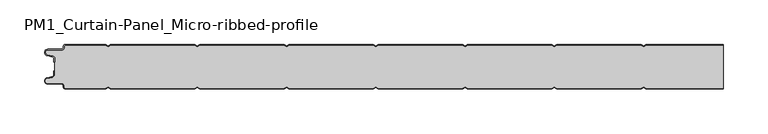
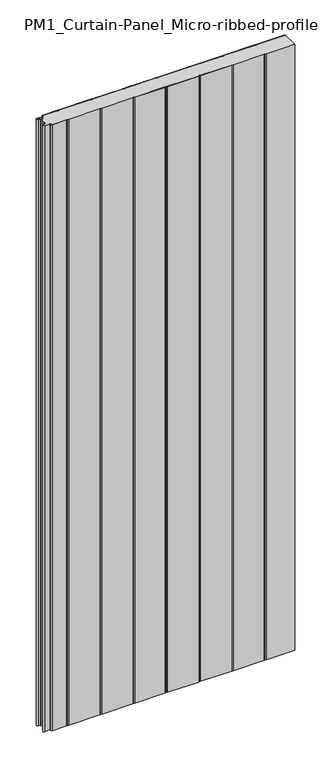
"""IFC4 building model written with IfcOpenShell, lengths in millimetres: plate geometry, PM1_Curtain-Panel_Micro-ribbed-profile : ACH_PM1_Stone-wool-Panel_50M."""

from ifc_helpers import new_model, si_unit, point, frame_2d, origin, origin_with_axes, place, context, project, spatial, polyline, circle_curve, trimmed, segment, composite_curve, outline, extrude, source, transform, mapped, element, save


def pm1_curtain_panel_micro_ribbed_profile_d84f3b6b(model_context):
    return source(origin(), model_context, "Body", "SweptSolid", [
        extrude(outline(composite_curve([segment(trimmed(circle_curve(frame_2d((-377.0119739, -15.878557)), 2.0), [point((-375.0119739, -15.878557))], [point((-376.5620718, -13.9298169))], True, "CARTESIAN"), True, "CONTINUOUS"), segment(polyline([(-376.5620718, -13.9298169), (-382.7217978, -12.507732)]), True, "CONTINUOUS"), segment(trimmed(circle_curve(frame_2d((-381.9119739, -9.0)), 3.6), [point((-382.7217978, -12.507732))], [point((-381.9119739, -5.4))], False, "CARTESIAN"), True, "CONTINUOUS"), segment(polyline([(-381.9119739, -5.4), (-366.4119739, -5.4)]), True, "CONTINUOUS"), segment(trimmed(circle_curve(frame_2d((-366.4119739, -3.4)), 2.0), [point((-366.4119739, -5.4))], [point((-364.4119739, -3.4))], True, "CARTESIAN"), True, "CONTINUOUS"), segment(polyline([(-364.4119739, -3.4), (-364.4119739, -2.0)]), True, "CONTINUOUS"), segment(trimmed(circle_curve(frame_2d((-362.4119739, -2.0)), 2.0), [point((-364.4119739, -2.0))], [point((-362.4119739, 0.0))], False, "CARTESIAN"), True, "CONTINUOUS"), segment(polyline([(-362.4119739, 0.0), (-317.1119734, 0.0), (-314.4119739, -1.5588455), (-311.7119745, 0.0), (-217.1119734, 0.0), (-214.4119739, -1.5588455), (-211.7119745, 0.0), (-117.1119734, 0.0), (-114.4119739, -1.5588455), (-111.7119745, 0.0), (-17.1119734, 0.0), (-14.4119739, -1.5588455), (-11.7119745, 0.0), (82.8880266, 0.0), (85.5880261, -1.5588455), (88.2880255, 0.0), (182.8880266, 0.0), (185.5880261, -1.5588455), (188.2880255, 0.0), (282.8880266, 0.0), (285.5880261, -1.5588455), (288.2880255, 0.0), (375.0119739, 0.0), (375.0119739, -0.8), (288.5023849, -0.8), (285.5880261, -2.482606), (282.6736672, -0.8), (188.5023849, -0.8), (185.5880261, -2.482606), (182.6736672, -0.8), (88.5023849, -0.8), (85.5880261, -2.482606), (82.6736672, -0.8), (-11.4976151, -0.8), (-14.4119739, -2.482606), (-17.3263328, -0.8), (-111.4976151, -0.8), (-114.4119739, -2.482606), (-117.3263328, -0.8), (-211.4976151, -0.8), (-214.4119739, -2.482606), (-217.3263328, -0.8), (-311.4976151, -0.8), (-314.4119739, -2.482606), (-317.3263328, -0.8), (-362.4119739, -0.8)]), True, "CONTINUOUS"), segment(trimmed(circle_curve(frame_2d((-362.4119739, -2.0)), 1.2), [point((-362.4119739, -0.8))], [point((-363.6119739, -2.0))], True, "CARTESIAN"), True, "CONTINUOUS"), segment(polyline([(-363.6119739, -2.0), (-363.6119739, -3.4)]), True, "CONTINUOUS"), segment(trimmed(circle_curve(frame_2d((-366.4119739, -3.4)), 2.8), [point((-363.6119739, -3.4))], [point((-366.4119739, -6.2))], False, "CARTESIAN"), True, "CONTINUOUS"), segment(polyline([(-366.4119739, -6.2), (-381.9119739, -6.2)]), True, "CONTINUOUS"), segment(trimmed(circle_curve(frame_2d((-381.9119739, -9.0)), 2.8), [point((-381.9119739, -6.2))], [point((-382.541837, -11.7282362))], True, "CARTESIAN"), True, "CONTINUOUS"), segment(polyline([(-382.541837, -11.7282362), (-376.3821109, -13.150321)]), True, "CONTINUOUS"), segment(trimmed(circle_curve(frame_2d((-377.0119739, -15.878557)), 2.8), [point((-376.3821109, -13.150321))], [point((-374.2119739, -15.878557))], False, "CARTESIAN"), True, "CONTINUOUS"), segment(polyline([(-374.2119739, -15.878557), (-374.2119739, -20.0), (-375.0119739, -20.0), (-375.0119739, -15.878557)]), True, "CONTINUOUS")], self_intersect=False)), origin_with_axes(), (0.0, 0.0, 1.0), 1945.7507136),
        extrude(outline(composite_curve([segment(polyline([(-374.2119739, -34.1214426), (-374.2119739, -15.8785573)]), True, "CONTINUOUS"), segment(trimmed(circle_curve(frame_2d((-377.0119739, -15.8785573)), 2.8), [point((-374.2119739, -15.8785573))], [point((-376.3821109, -13.1503212))], True, "CARTESIAN"), True, "CONTINUOUS"), segment(polyline([(-376.3821109, -13.1503212), (-382.541837, -11.7282362)]), True, "CONTINUOUS"), segment(trimmed(circle_curve(frame_2d((-381.911974, -9.0)), 2.8), [point((-382.541837, -11.7282362))], [point((-381.911974, -6.2))], False, "CARTESIAN"), True, "CONTINUOUS"), segment(polyline([(-381.911974, -6.2), (-366.411974, -6.2)]), True, "CONTINUOUS"), segment(trimmed(circle_curve(frame_2d((-366.411974, -3.4)), 2.8), [point((-366.411974, -6.2))], [point((-363.611974, -3.4))], True, "CARTESIAN"), True, "CONTINUOUS"), segment(polyline([(-363.611974, -3.4), (-363.611974, -2.0)]), True, "CONTINUOUS"), segment(trimmed(circle_curve(frame_2d((-362.411974, -2.0)), 1.2), [point((-363.611974, -2.0))], [point((-362.411974, -0.8))], False, "CARTESIAN"), True, "CONTINUOUS"), segment(polyline([(-362.411974, -0.8), (-317.3263329, -0.8), (-314.411974, -2.482606), (-311.4976152, -0.8), (-217.3263329, -0.8), (-214.411974, -2.482606), (-211.4976152, -0.8), (-117.3263329, -0.8), (-114.411974, -2.482606), (-111.4976152, -0.8), (-17.3263329, -0.8), (-14.411974, -2.482606), (-11.4976152, -0.8), (82.6736671, -0.8), (85.588026, -2.482606), (88.5023848, -0.8), (182.6736671, -0.8), (185.588026, -2.482606), (188.5023848, -0.8), (282.6736671, -0.8), (285.588026, -2.482606), (288.5023848, -0.8), (375.0119739, -0.8), (375.0119739, -49.2), (288.5023848, -49.2), (285.588026, -47.517394), (282.6736671, -49.2), (188.5023848, -49.2), (185.588026, -47.517394), (182.6736671, -49.2), (88.5023848, -49.2), (85.588026, -47.517394), (82.6736671, -49.2), (-11.4976152, -49.2), (-14.411974, -47.517394), (-17.3263329, -49.2), (-111.4976152, -49.2), (-114.411974, -47.517394), (-117.3263329, -49.2), (-211.4976152, -49.2), (-214.411974, -47.517394), (-217.3263329, -49.2), (-311.4976152, -49.2), (-314.411974, -47.517394), (-317.3263329, -49.2), (-362.411974, -49.2)]), True, "CONTINUOUS"), segment(trimmed(circle_curve(frame_2d((-362.411974, -48.0)), 1.2), [point((-362.411974, -49.2))], [point((-363.611974, -48.0))], False, "CARTESIAN"), True, "CONTINUOUS"), segment(polyline([(-363.611974, -48.0), (-363.611974, -46.6)]), True, "CONTINUOUS"), segment(trimmed(circle_curve(frame_2d((-366.411974, -46.6)), 2.8), [point((-363.611974, -46.6))], [point((-366.411974, -43.8))], True, "CARTESIAN"), True, "CONTINUOUS"), segment(polyline([(-366.411974, -43.8), (-381.911974, -43.8)]), True, "CONTINUOUS"), segment(trimmed(circle_curve(frame_2d((-381.911974, -41.0)), 2.8), [point((-381.911974, -43.8))], [point((-382.541837, -38.2717638))], False, "CARTESIAN"), True, "CONTINUOUS"), segment(polyline([(-382.541837, -38.2717638), (-376.3821109, -36.8496788)]), True, "CONTINUOUS"), segment(trimmed(circle_curve(frame_2d((-377.0119739, -34.1214426)), 2.8), [point((-376.3821109, -36.8496788))], [point((-374.2119739, -34.1214426))], True, "CARTESIAN"), True, "CONTINUOUS")], self_intersect=False)), origin_with_axes(), (0.0, 0.0, 1.0), 1945.7507136),
        extrude(outline(composite_curve([segment(polyline([(-375.0119739, -34.121443), (-375.0119739, -30.0), (-374.2119739, -30.0), (-374.2119739, -34.121443)]), True, "CONTINUOUS"), segment(trimmed(circle_curve(frame_2d((-377.0119739, -34.121443)), 2.8), [point((-374.2119739, -34.121443))], [point((-376.3821109, -36.8496792))], False, "CARTESIAN"), True, "CONTINUOUS"), segment(polyline([(-376.3821109, -36.8496792), (-382.5418369, -38.271764)]), True, "CONTINUOUS"), segment(trimmed(circle_curve(frame_2d((-381.9119739, -41.0)), 2.8), [point((-382.5418369, -38.271764))], [point((-381.9119739, -43.8))], True, "CARTESIAN"), True, "CONTINUOUS"), segment(polyline([(-381.9119739, -43.8), (-366.4119739, -43.8)]), True, "CONTINUOUS"), segment(trimmed(circle_curve(frame_2d((-366.4119739, -46.6)), 2.8), [point((-366.4119739, -43.8))], [point((-363.6119739, -46.6))], False, "CARTESIAN"), True, "CONTINUOUS"), segment(polyline([(-363.6119739, -46.6), (-363.6119739, -48.0)]), True, "CONTINUOUS"), segment(trimmed(circle_curve(frame_2d((-362.4119739, -48.0)), 1.2), [point((-363.6119739, -48.0))], [point((-362.4119739, -49.2))], True, "CARTESIAN"), True, "CONTINUOUS"), segment(polyline([(-362.4119739, -49.2), (-317.3263328, -49.2), (-314.4119739, -47.517394), (-311.4976151, -49.2), (-217.3263328, -49.2), (-214.4119739, -47.517394), (-211.4976151, -49.2), (-117.3263328, -49.2), (-114.4119739, -47.517394), (-111.4976151, -49.2), (-17.3263328, -49.2), (-14.4119739, -47.517394), (-11.4976151, -49.2), (82.6736672, -49.2), (85.5880261, -47.517394), (88.5023849, -49.2), (182.6736672, -49.2), (185.5880261, -47.517394), (188.5023849, -49.2), (282.6736672, -49.2), (285.5880261, -47.517394), (288.5023849, -49.2), (375.0119739, -49.2), (375.0119739, -50.0), (288.2880255, -50.0), (285.5880261, -48.4411545), (282.8880266, -50.0), (188.2880255, -50.0), (185.5880261, -48.4411545), (182.8880266, -50.0), (88.2880255, -50.0), (85.5880261, -48.4411545), (82.8880266, -50.0), (-11.7119745, -50.0), (-14.4119739, -48.4411545), (-17.1119734, -50.0), (-111.7119745, -50.0), (-114.4119739, -48.4411545), (-117.1119734, -50.0), (-211.7119745, -50.0), (-214.4119739, -48.4411545), (-217.1119734, -50.0), (-311.7119745, -50.0), (-314.4119739, -48.4411545), (-317.1119734, -50.0), (-362.4119739, -50.0)]), True, "CONTINUOUS"), segment(trimmed(circle_curve(frame_2d((-362.4119739, -48.0)), 2.0), [point((-362.4119739, -50.0))], [point((-364.4119739, -48.0))], False, "CARTESIAN"), True, "CONTINUOUS"), segment(polyline([(-364.4119739, -48.0), (-364.4119739, -46.6)]), True, "CONTINUOUS"), segment(trimmed(circle_curve(frame_2d((-366.4119739, -46.6)), 2.0), [point((-364.4119739, -46.6))], [point((-366.4119739, -44.6))], True, "CARTESIAN"), True, "CONTINUOUS"), segment(polyline([(-366.4119739, -44.6), (-381.9119739, -44.6)]), True, "CONTINUOUS"), segment(trimmed(circle_curve(frame_2d((-381.9119739, -41.0)), 3.6), [point((-381.9119739, -44.6))], [point((-382.7217979, -37.4922678))], False, "CARTESIAN"), True, "CONTINUOUS"), segment(polyline([(-382.7217979, -37.4922678), (-376.5620718, -36.070183)]), True, "CONTINUOUS"), segment(trimmed(circle_curve(frame_2d((-377.0119739, -34.121443)), 2.0), [point((-376.5620718, -36.070183))], [point((-375.0119739, -34.121443))], True, "CARTESIAN"), True, "CONTINUOUS")], self_intersect=False)), origin_with_axes(), (0.0, 0.0, 1.0), 1945.7507136),
    ])


if __name__ == "__main__":
    model = new_model("IFC4")
    model_context = context("Model", 3, world=origin())
    ifc_project = project(units=[si_unit("LENGTHUNIT", "METRE", prefix="MILLI")], contexts=[model_context])
    site = spatial("IfcSite", under=ifc_project)
    building = spatial("IfcBuilding", under=site)
    placement = place(None, origin())
    pm1_curtain_panel_micro_ribbed_profile_shape = pm1_curtain_panel_micro_ribbed_profile_d84f3b6b(model_context)
    element("IfcPlate", 1, ObjectType="PM1_Curtain-Panel_Micro-ribbed-profile : ACH_PM1_Stone-wool-Panel_50M", at=placement, inside=building, context=model_context, shape_type="MappedRepresentation", body=[
        mapped(pm1_curtain_panel_micro_ribbed_profile_shape, transform((0.0, 0.0, 0.0), x_axis=(1.0, 0.0, 0.0), y_axis=(0.0, 1.0, 0.0), z_axis=(0.0, 0.0, 1.0))),
    ])
    save(model, "model.ifc")
